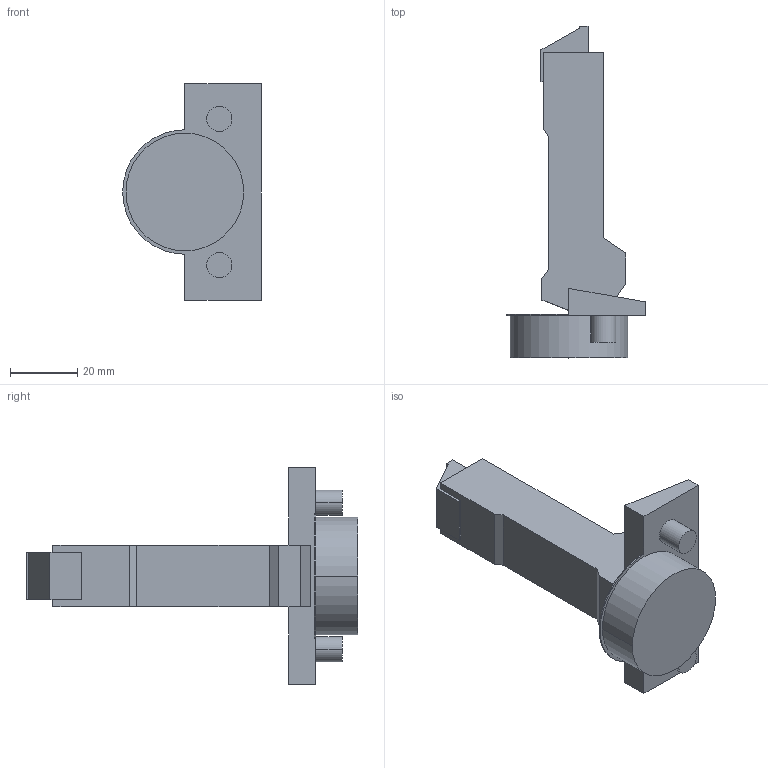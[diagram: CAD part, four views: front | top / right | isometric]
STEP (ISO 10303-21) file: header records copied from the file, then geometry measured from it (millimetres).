
FILE_DESCRIPTION (( 'STEP AP214' ), '1' );
FILE_NAME ('Scharnier TS Impresso 95° GB_BB, K95.step', '2010-12-06T09:51:54', ( 'grass' ), ( '' ), 'SwSTEP 2.0', 'SolidWorks 2010', '' );
FILE_SCHEMA (( 'AUTOMOTIVE_DESIGN' ));
Length unit declared in the file: millimetre
Products named in the file (1): Scharnier TS Impresso 95° GB_BB, K95
Bounding box: 41.25 x 98.7 x 64.5 mm (x, y, z)
Volume: 46978.5 mm3; surface area: 12897.7 mm2
Topology: 1 solids, 3 shells, 58 faces, 138 edges, 92 vertices
Faces by surface type: plane 41, cylinder 17
Entity records: 1706 total; most frequent: DIRECTION 290, CARTESIAN_POINT 289, ORIENTED_EDGE 276, EDGE_CURVE 138, VECTOR 104, LINE 104, AXIS2_PLACEMENT_3D 93, VERTEX_POINT 92
